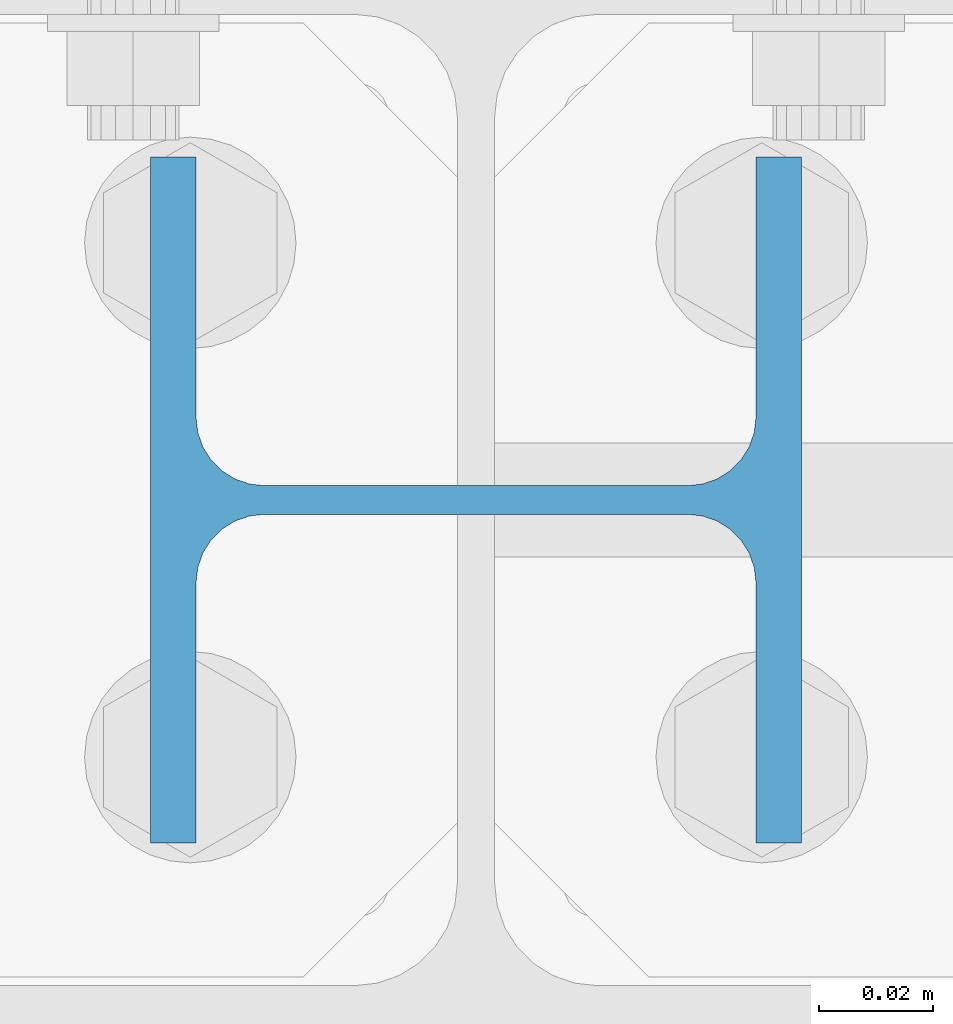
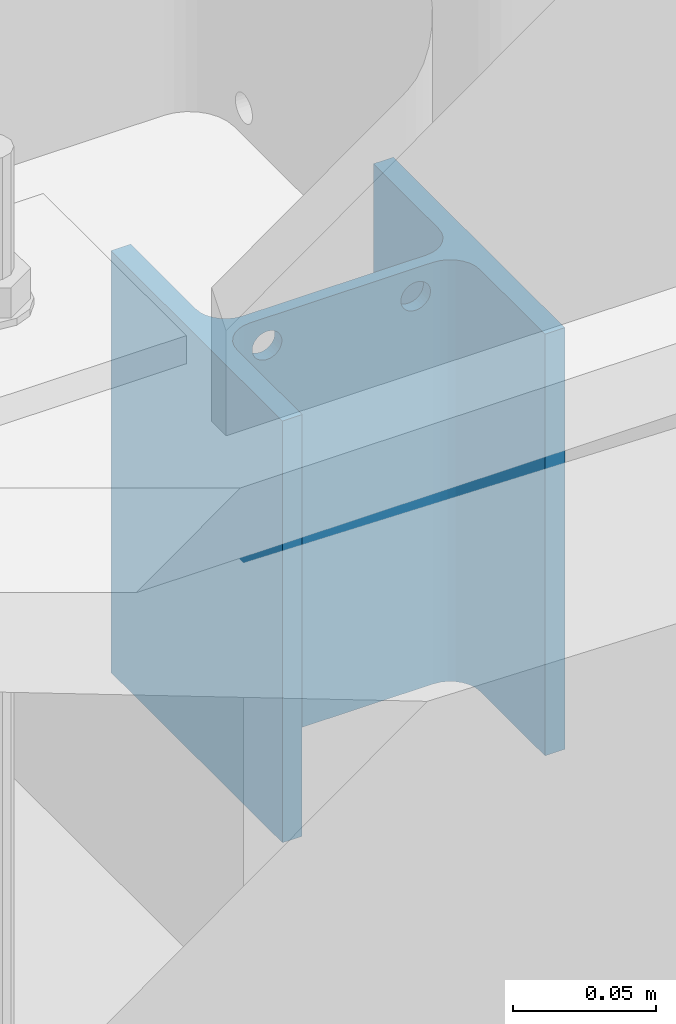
# One storey, part 13 of 825: 1 column, 2 openings.
"""IFC2X3 building model written with IfcOpenShell, lengths in millimetres."""

from ifc_helpers import new_model, entity, si_unit, converted_unit, frame, origin, origin_with_axes, origin_2d, origin_2d_with_axis, place, context, project, spatial, circle, i_section, extrude, material, element, save


model = new_model("IFC2X3")

# Units and contexts
model_context = context("Model", 3, precision=1e-09, world=origin_with_axes())
ifc_project = project(units=[si_unit("LENGTHUNIT", "METRE", prefix="MILLI"), si_unit("AREAUNIT", "SQUARE_METRE"), si_unit("VOLUMEUNIT", "CUBIC_METRE"), converted_unit("PLANEANGLEUNIT", "DEGREE", entity("IfcPlaneAngleMeasure", 0.01745329), si_unit("PLANEANGLEUNIT", "RADIAN"), dimensions=[0, 0, 0, 0, 0, 0, 0])], contexts=[model_context])

# Site, building, storey
site_placement = place(None, origin_with_axes())
site = spatial("IfcSite", under=ifc_project, at=site_placement, Name="Cnopf'sche Kinderklinik", CompositionType="ELEMENT")
building_placement = place(site_placement, origin_with_axes())
building = spatial("IfcBuilding", under=site, at=building_placement, Name="Struktur 1", CompositionType="ELEMENT")
storey_placement = place(building_placement, origin_with_axes())
storey = spatial("IfcBuildingStorey", under=building, at=storey_placement, Name="Default Storey", CompositionType="ELEMENT", Elevation=0.0)

# Column, openings
ifc_material = material(Name="S235JR")
column_placement = place(None, frame((4856.713402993, 4366.736971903, 30.0), z_axis=(0.0, 0.0, 1.0), x_axis=(0.0, -1.0, 0.0)))
column = element("IfcColumn", 1, at=column_placement, inside=storey, material=ifc_material, Name="-", ObjectType="-", context=model_context, shape_type="SweptSolid", body=[
    extrude(i_section(OverallWidth=120.0, OverallDepth=114.0, WebThickness=5.0, FlangeThickness=8.0, FilletRadius=12.0, at=origin_2d()), origin(), (0.0, 0.0, -1.0), 180.0),
])
opening_1_placement = place(column_placement, frame((-3.0, 30.0, -12.0), z_axis=(1.0, 0.0, 0.0), x_axis=(0.0, 0.0, -1.0)))
element("IfcOpeningElement", 2, at=opening_1_placement, cuts=column, ObjectType="Opening", context=model_context, shape_type="SweptSolid", body=[
    extrude(circle(Radius=6.001, at=origin_2d_with_axis()), origin(), (0.0, 0.0, 1.0), 6.0),
])
opening_2_placement = place(column_placement, frame((-3.0, -30.0, -12.0), z_axis=(1.0, 0.0, 0.0), x_axis=(0.0, 0.0, -1.0)))
element("IfcOpeningElement", 3, at=opening_2_placement, cuts=column, ObjectType="Opening", context=model_context, shape_type="SweptSolid", body=[
    extrude(circle(Radius=6.001, at=origin_2d_with_axis()), origin(), (0.0, 0.0, 1.0), 6.0),
])

save(model, "model.ifc")
